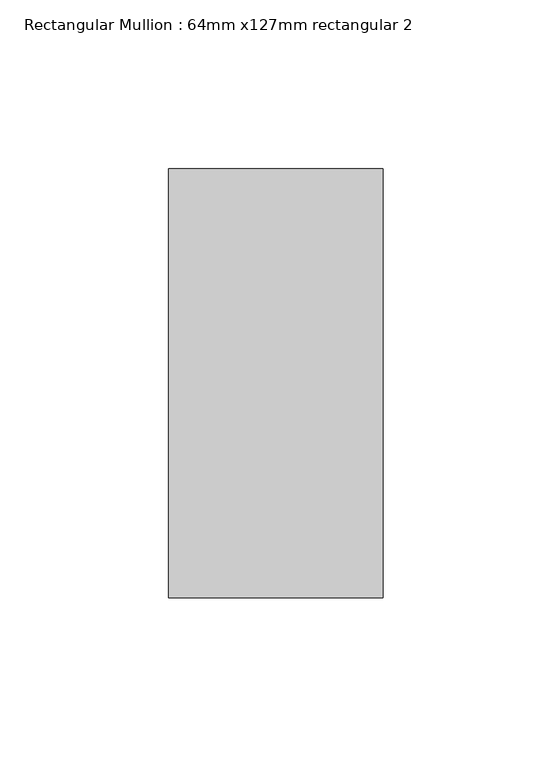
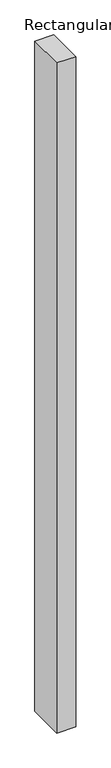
"""IFC4 building model written with IfcOpenShell, lengths in millimetres: member geometry, Rectangular Mullion : 64mm x127mm rectangular 2."""

from ifc_helpers import new_model, si_unit, frame, origin, place, context, project, spatial, polyline, outline, extrude, source, transform, mapped, element, save


def rectangular_mullion_64mm_x127mm_rectangular_2_aca2403a(model_context):
    return source(origin(), model_context, "Body", "SweptSolid", [
        extrude(outline(polyline([(31.75, 63.5), (31.75, -63.5), (-31.75, -63.5), (-31.75, 63.5), (31.75, 63.5)])), frame((0.0, 0.0, -2380.4593009), z_axis=(0.0, 0.0, 1.0), x_axis=(1.0, 0.0, 0.0)), (0.0, 0.0, 1.0), 2380.4593009),
    ])


if __name__ == "__main__":
    model = new_model("IFC4")
    model_context = context("Model", 3, world=origin())
    ifc_project = project(units=[si_unit("LENGTHUNIT", "METRE", prefix="MILLI")], contexts=[model_context])
    site = spatial("IfcSite", under=ifc_project)
    building = spatial("IfcBuilding", under=site)
    placement = place(None, origin())
    rectangular_mullion_64mm_x127mm_rectangular_2_shape = rectangular_mullion_64mm_x127mm_rectangular_2_aca2403a(model_context)
    element("IfcMember", 1, ObjectType="Rectangular Mullion : 64mm x127mm rectangular 2", at=placement, inside=building, context=model_context, shape_type="MappedRepresentation", body=[
        mapped(rectangular_mullion_64mm_x127mm_rectangular_2_shape, transform((0.0, 0.0, 0.0), x_axis=(1.0, 0.0, 0.0), y_axis=(0.0, 1.0, 0.0), z_axis=(0.0, 0.0, 1.0))),
    ])
    save(model, "model.ifc")
